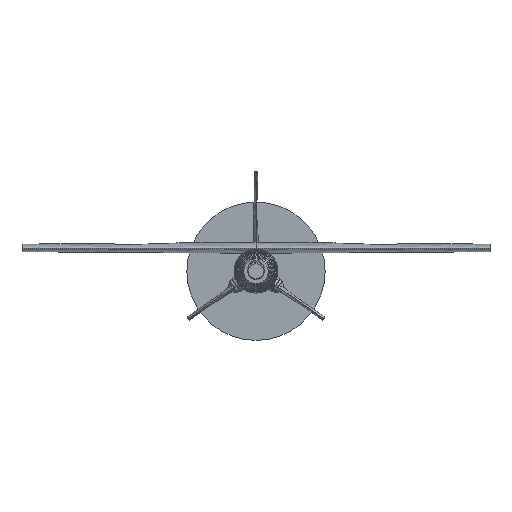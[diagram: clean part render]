
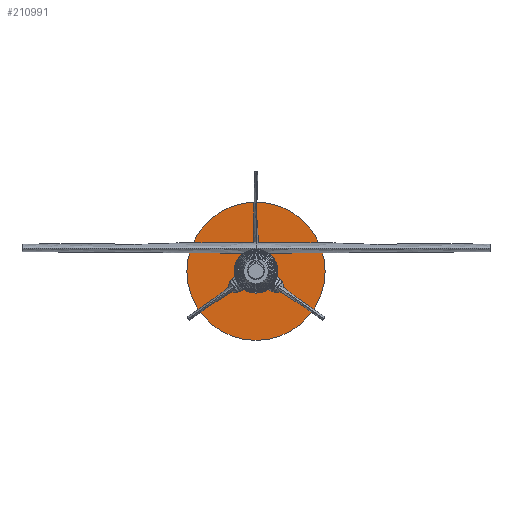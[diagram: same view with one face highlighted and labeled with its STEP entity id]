
A CAD part, left-side view. The second image highlights one B-rep face of the part: STEP entity #210991.
In plain terms, the highlighted planar face has unit normal (-1, 0, 0).
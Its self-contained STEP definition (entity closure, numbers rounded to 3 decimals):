
#210913 = CYLINDRICAL_SURFACE('',#210914,63.5);
#210914 = AXIS2_PLACEMENT_3D('',#210915,#210916,#210917);
#210915 = CARTESIAN_POINT('',(467.55,0.,0.));
#210916 = DIRECTION('',(1.,0.,0.));
#210917 = DIRECTION('',(-0.,0.,1.));
#210938 = VERTEX_POINT('',#210939);
#210939 = CARTESIAN_POINT('',(467.55,0.,63.5));
#210960 = EDGE_CURVE('',#210938,#210938,#210961,.T.);
#210961 = SURFACE_CURVE('',#210962,(#210967,#210974),.PCURVE_S1.);
#210962 = CIRCLE('',#210963,63.5);
#210963 = AXIS2_PLACEMENT_3D('',#210964,#210965,#210966);
#210964 = CARTESIAN_POINT('',(467.55,0.,0.));
#210965 = DIRECTION('',(1.,0.,0.));
#210966 = DIRECTION('',(-0.,0.,1.));
#210967 = PCURVE('',#210913,#210968);
#210968 = DEFINITIONAL_REPRESENTATION('',(#210969),#210973);
#210969 = LINE('',#210970,#210971);
#210970 = CARTESIAN_POINT('',(0.,0.));
#210971 = VECTOR('',#210972,1.);
#210972 = DIRECTION('',(1.,0.));
#210973 = ( GEOMETRIC_REPRESENTATION_CONTEXT(2) 
PARAMETRIC_REPRESENTATION_CONTEXT() REPRESENTATION_CONTEXT('2D SPACE',''
  ) );
#210974 = PCURVE('',#210975,#210980);
#210975 = PLANE('',#210976);
#210976 = AXIS2_PLACEMENT_3D('',#210977,#210978,#210979);
#210977 = CARTESIAN_POINT('',(467.55,0.,0.));
#210978 = DIRECTION('',(1.,0.,0.));
#210979 = DIRECTION('',(-0.,0.,1.));
#210980 = DEFINITIONAL_REPRESENTATION('',(#210981),#210985);
#210981 = CIRCLE('',#210982,63.5);
#210982 = AXIS2_PLACEMENT_2D('',#210983,#210984);
#210983 = CARTESIAN_POINT('',(0.,0.));
#210984 = DIRECTION('',(1.,0.));
#210985 = ( GEOMETRIC_REPRESENTATION_CONTEXT(2) 
PARAMETRIC_REPRESENTATION_CONTEXT() REPRESENTATION_CONTEXT('2D SPACE',''
  ) );
#210991 = ADVANCED_FACE('',(#210992),#210975,.F.);
#210992 = FACE_BOUND('',#210993,.T.);
#210993 = EDGE_LOOP('',(#210994));
#210994 = ORIENTED_EDGE('',*,*,#210960,.F.);
